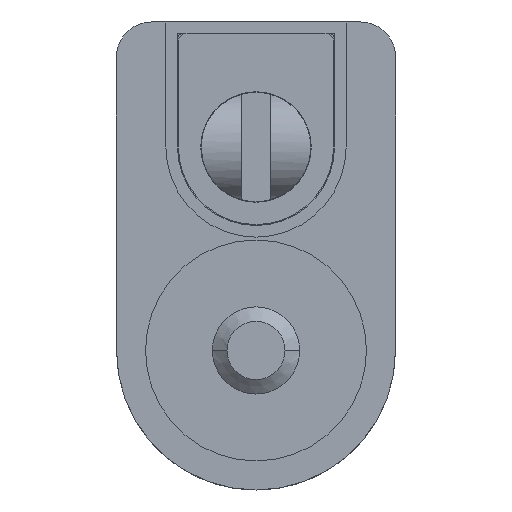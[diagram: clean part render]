
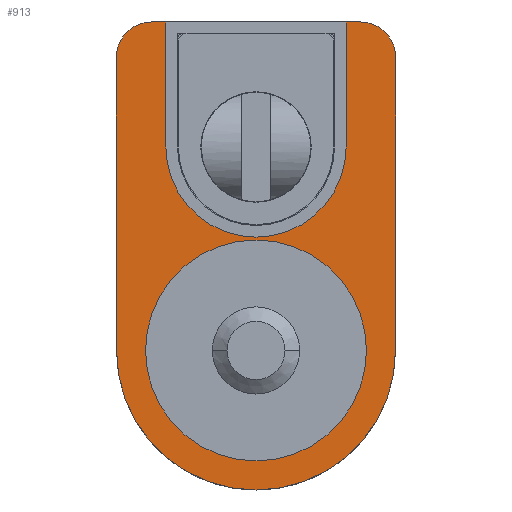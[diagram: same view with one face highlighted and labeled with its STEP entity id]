
A CAD part, left-side view. The second image highlights one B-rep face of the part: STEP entity #913.
In plain terms, the highlighted planar face has unit normal (-1, 0, 0).
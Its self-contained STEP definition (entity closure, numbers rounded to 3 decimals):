
#12=CARTESIAN_POINT('',(0.,0.,-35.));
#13=DIRECTION('',(-1.,0.,0.));
#14=DIRECTION('',(0.,-1.,0.));
#15=AXIS2_PLACEMENT_3D('',#12,#13,#14);
#17=CARTESIAN_POINT('',(0.,0.,-35.));
#18=DIRECTION('',(-1.,0.,0.));
#19=DIRECTION('',(0.,1.,0.));
#20=AXIS2_PLACEMENT_3D('',#17,#18,#19);
#22=CARTESIAN_POINT('',(0.,-14.5,-35.));
#23=DIRECTION('',(-1.,0.,0.));
#24=DIRECTION('',(0.,-1.,0.));
#25=AXIS2_PLACEMENT_3D('',#22,#23,#24);
#27=CARTESIAN_POINT('',(0.,-14.5,-35.));
#28=DIRECTION('',(-1.,0.,0.));
#29=DIRECTION('',(0.,1.,0.));
#30=AXIS2_PLACEMENT_3D('',#27,#28,#29);
#32=CARTESIAN_POINT('',(0.,14.5,-35.));
#33=DIRECTION('',(-1.,0.,0.));
#34=DIRECTION('',(0.,-1.,0.));
#35=AXIS2_PLACEMENT_3D('',#32,#33,#34);
#37=CARTESIAN_POINT('',(0.,14.5,-35.));
#38=DIRECTION('',(-1.,0.,0.));
#39=DIRECTION('',(0.,1.,0.));
#40=AXIS2_PLACEMENT_3D('',#37,#38,#39);
#42=CARTESIAN_POINT('',(0.,-11.314,-46.314));
#43=DIRECTION('',(-1.,0.,0.));
#44=DIRECTION('',(0.,-0.732,0.681));
#45=AXIS2_PLACEMENT_3D('',#42,#43,#44);
#47=CARTESIAN_POINT('',(0.,0.,-35.));
#48=DIRECTION('',(-1.,0.,0.));
#49=DIRECTION('',(0.,-0.541,-0.841));
#50=AXIS2_PLACEMENT_3D('',#47,#48,#49);
#52=DIRECTION('',(0.,0.,-1.));
#53=VECTOR('',#52,21.5);
#54=CARTESIAN_POINT('',(0.,-15.5,21.5));
#55=LINE('',#54,#53);
#56=DIRECTION('',(0.,-1.,0.));
#57=VECTOR('',#56,2.5);
#58=CARTESIAN_POINT('',(0.,-15.5,21.5));
#59=LINE('',#58,#57);
#60=CARTESIAN_POINT('',(0.,-18.,15.5));
#61=DIRECTION('',(1.,0.,0.));
#62=DIRECTION('',(0.,0.,1.));
#63=AXIS2_PLACEMENT_3D('',#60,#61,#62);
#65=DIRECTION('',(0.,0.,-1.));
#66=VECTOR('',#65,50.5);
#67=CARTESIAN_POINT('',(0.,-24.,15.5));
#68=LINE('',#67,#66);
#69=CARTESIAN_POINT('',(0.,0.,-35.));
#70=DIRECTION('',(1.,0.,0.));
#71=DIRECTION('',(0.,-1.,0.));
#72=AXIS2_PLACEMENT_3D('',#69,#70,#71);
#74=DIRECTION('',(0.,0.,1.));
#75=VECTOR('',#74,50.5);
#76=CARTESIAN_POINT('',(0.,24.,-35.));
#77=LINE('',#76,#75);
#78=CARTESIAN_POINT('',(0.,18.,15.5));
#79=DIRECTION('',(1.,0.,0.));
#80=DIRECTION('',(0.,1.,0.));
#81=AXIS2_PLACEMENT_3D('',#78,#79,#80);
#83=DIRECTION('',(0.,-1.,0.));
#84=VECTOR('',#83,2.5);
#85=CARTESIAN_POINT('',(0.,18.,21.5));
#86=LINE('',#85,#84);
#87=DIRECTION('',(0.,0.,-1.));
#88=VECTOR('',#87,21.5);
#89=CARTESIAN_POINT('',(0.,15.5,21.5));
#90=LINE('',#89,#88);
#91=CARTESIAN_POINT('',(0.,0.,0.));
#92=DIRECTION('',(-1.,0.,0.));
#93=DIRECTION('',(0.,1.,0.));
#94=AXIS2_PLACEMENT_3D('',#91,#92,#93);
#666=CARTESIAN_POINT('',(0.,-6.55,-35.));
#667=CARTESIAN_POINT('',(0.,6.55,-35.));
#668=VERTEX_POINT('',#666);
#669=VERTEX_POINT('',#667);
#670=CARTESIAN_POINT('',(0.,-24.,-35.));
#671=CARTESIAN_POINT('',(0.,24.,-35.));
#672=VERTEX_POINT('',#670);
#673=VERTEX_POINT('',#671);
#674=CARTESIAN_POINT('',(0.,24.,15.5));
#675=VERTEX_POINT('',#674);
#676=CARTESIAN_POINT('',(0.,-24.,15.5));
#677=VERTEX_POINT('',#676);
#686=CARTESIAN_POINT('',(0.,18.,21.5));
#687=VERTEX_POINT('',#686);
#688=CARTESIAN_POINT('',(0.,-18.,21.5));
#689=VERTEX_POINT('',#688);
#690=CARTESIAN_POINT('',(0.,-16.1,-35.));
#691=CARTESIAN_POINT('',(0.,-12.9,-35.));
#692=VERTEX_POINT('',#690);
#693=VERTEX_POINT('',#691);
#694=CARTESIAN_POINT('',(0.,12.9,-35.));
#695=CARTESIAN_POINT('',(0.,16.1,-35.));
#696=VERTEX_POINT('',#694);
#697=VERTEX_POINT('',#695);
#706=CARTESIAN_POINT('',(0.,-13.875,-43.929));
#707=CARTESIAN_POINT('',(0.,-8.929,-48.875));
#708=VERTEX_POINT('',#706);
#709=VERTEX_POINT('',#707);
#780=CARTESIAN_POINT('',(0.,-15.5,21.5));
#781=CARTESIAN_POINT('',(0.,-15.5,0.));
#782=VERTEX_POINT('',#780);
#783=VERTEX_POINT('',#781);
#792=CARTESIAN_POINT('',(0.,15.5,21.5));
#793=CARTESIAN_POINT('',(0.,15.5,0.));
#794=VERTEX_POINT('',#792);
#795=VERTEX_POINT('',#793);
#862=CARTESIAN_POINT('',(0.,0.,0.));
#863=DIRECTION('',(1.,0.,0.));
#864=DIRECTION('',(0.,-1.,0.));
#865=AXIS2_PLACEMENT_3D('',#862,#863,#864);
#866=PLANE('',#865);
#868=ORIENTED_EDGE('',*,*,#867,.F.);
#870=ORIENTED_EDGE('',*,*,#869,.T.);
#872=ORIENTED_EDGE('',*,*,#871,.T.);
#874=ORIENTED_EDGE('',*,*,#873,.T.);
#876=ORIENTED_EDGE('',*,*,#875,.T.);
#878=ORIENTED_EDGE('',*,*,#877,.T.);
#880=ORIENTED_EDGE('',*,*,#879,.T.);
#882=ORIENTED_EDGE('',*,*,#881,.T.);
#884=ORIENTED_EDGE('',*,*,#883,.T.);
#886=ORIENTED_EDGE('',*,*,#885,.T.);
#887=EDGE_LOOP('',(#868,#870,#872,#874,#876,#878,#880,#882,#884,#886));
#888=FACE_OUTER_BOUND('',#887,.F.);
#890=ORIENTED_EDGE('',*,*,#889,.T.);
#892=ORIENTED_EDGE('',*,*,#891,.T.);
#893=EDGE_LOOP('',(#890,#892));
#894=FACE_BOUND('',#893,.F.);
#896=ORIENTED_EDGE('',*,*,#895,.T.);
#898=ORIENTED_EDGE('',*,*,#897,.T.);
#899=EDGE_LOOP('',(#896,#898));
#900=FACE_BOUND('',#899,.F.);
#902=ORIENTED_EDGE('',*,*,#901,.T.);
#904=ORIENTED_EDGE('',*,*,#903,.T.);
#905=EDGE_LOOP('',(#902,#904));
#906=FACE_BOUND('',#905,.F.);
#908=ORIENTED_EDGE('',*,*,#907,.T.);
#910=ORIENTED_EDGE('',*,*,#909,.T.);
#911=EDGE_LOOP('',(#908,#910));
#912=FACE_BOUND('',#911,.F.);
#913=ADVANCED_FACE('',(#888,#894,#900,#906,#912),#866,.F.);
#16=CIRCLE('',#15,6.55);
#21=CIRCLE('',#20,6.55);
#26=CIRCLE('',#25,1.6);
#31=CIRCLE('',#30,1.6);
#36=CIRCLE('',#35,1.6);
#41=CIRCLE('',#40,1.6);
#46=CIRCLE('',#45,3.5);
#51=CIRCLE('',#50,16.5);
#64=CIRCLE('',#63,6.);
#73=CIRCLE('',#72,24.);
#82=CIRCLE('',#81,6.);
#95=CIRCLE('',#94,15.5);
#867=EDGE_CURVE('',#782,#783,#55,.T.);
#869=EDGE_CURVE('',#782,#689,#59,.T.);
#871=EDGE_CURVE('',#689,#677,#64,.T.);
#873=EDGE_CURVE('',#677,#672,#68,.T.);
#875=EDGE_CURVE('',#672,#673,#73,.T.);
#877=EDGE_CURVE('',#673,#675,#77,.T.);
#879=EDGE_CURVE('',#675,#687,#82,.T.);
#881=EDGE_CURVE('',#687,#794,#86,.T.);
#883=EDGE_CURVE('',#794,#795,#90,.T.);
#885=EDGE_CURVE('',#795,#783,#95,.T.);
#889=EDGE_CURVE('',#668,#669,#16,.T.);
#891=EDGE_CURVE('',#669,#668,#21,.T.);
#895=EDGE_CURVE('',#692,#693,#26,.T.);
#897=EDGE_CURVE('',#693,#692,#31,.T.);
#901=EDGE_CURVE('',#696,#697,#36,.T.);
#903=EDGE_CURVE('',#697,#696,#41,.T.);
#907=EDGE_CURVE('',#708,#709,#46,.T.);
#909=EDGE_CURVE('',#709,#708,#51,.T.);
